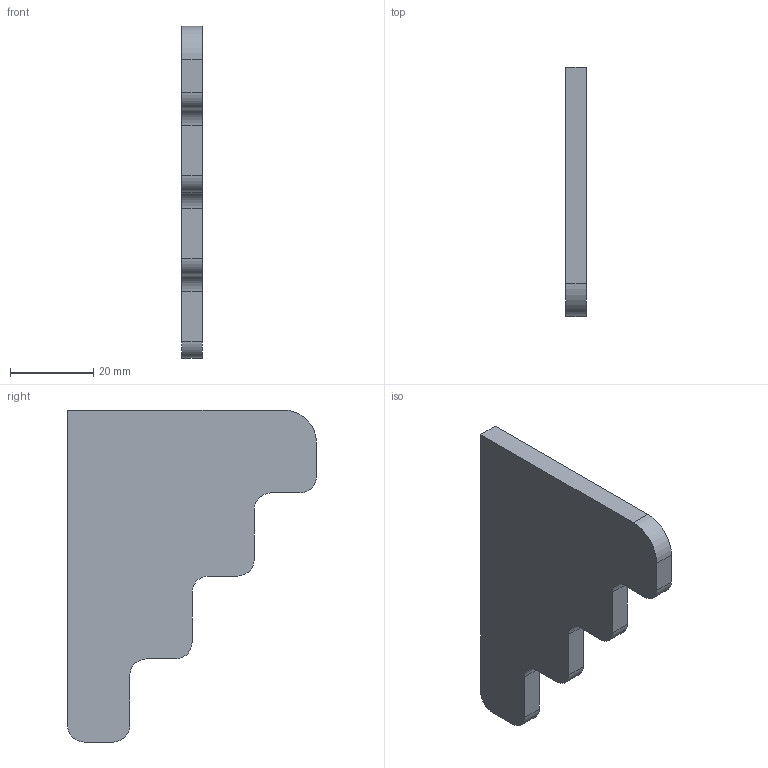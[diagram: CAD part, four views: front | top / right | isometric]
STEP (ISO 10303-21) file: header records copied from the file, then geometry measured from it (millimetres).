
FILE_DESCRIPTION(/* description */ (''),/* implementation_level */ '2;1');
FILE_NAME(/* name */ 'czesci_ekran.stp',/* time_stamp */ '2025-06-06T22:09:40+02:00',/* author */ (''),/* organization */ (''),/* preprocessor_version */ 'ST-DEVELOPER v20',/* originating_system */ 'SIEMENS PLM Software NX2412.3001',/* authorisation */ '');
FILE_SCHEMA (('AUTOMOTIVE_DESIGN { 1 0 10303 214 3 1 1 1 }'));
Length unit declared in the file: millimetre
Products named in the file (1): czesci_ekran
Bounding box: 5 x 60 x 80 mm (x, y, z)
Volume: 14897 mm3; surface area: 7273 mm2
Topology: 1 solids, 1 shells, 21 faces, 57 edges, 38 vertices
Faces by surface type: plane 12, cylinder 9
Entity records: 693 total; most frequent: DIRECTION 119, CARTESIAN_POINT 117, ORIENTED_EDGE 114, EDGE_CURVE 57, AXIS2_PLACEMENT_3D 40, LINE 39, VECTOR 39, VERTEX_POINT 38
